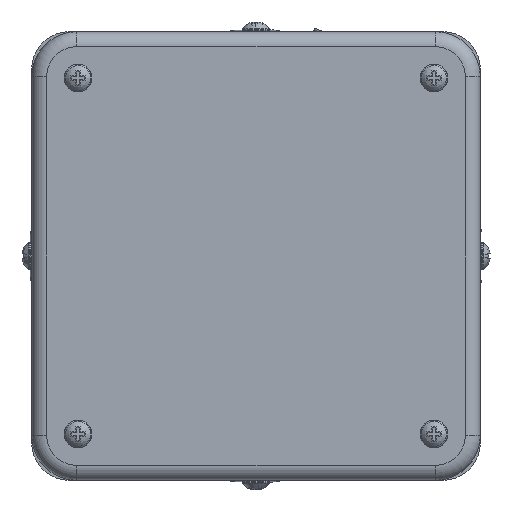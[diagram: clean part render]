
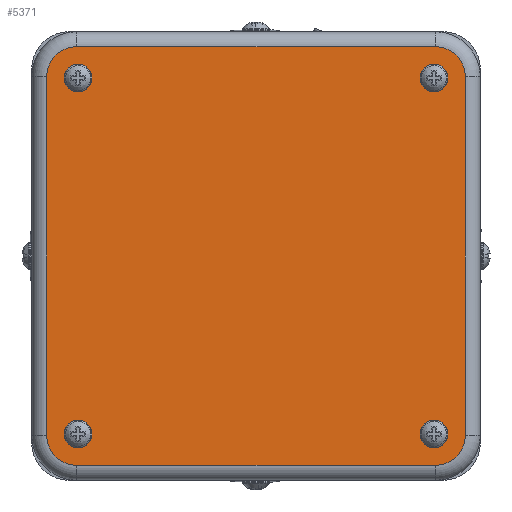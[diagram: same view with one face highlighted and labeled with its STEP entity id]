
A CAD part, left-side view. The second image highlights one B-rep face of the part: STEP entity #5371.
In plain terms, the highlighted planar face has unit normal (-1, 0, 0).
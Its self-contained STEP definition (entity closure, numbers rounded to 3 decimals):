
#1635=CARTESIAN_POINT('',(-123.672,-31.097,-23.376));
#1636=VERTEX_POINT('',#1635);
#1637=CARTESIAN_POINT('',(-123.672,-33.897,-23.376));
#1638=DIRECTION('',(1.0,0.0,0.0));
#1639=DIRECTION('',(0.0,-1.0,0.0));
#1640=AXIS2_PLACEMENT_3D('',#1637,#1638,#1639);
#1641=CIRCLE('',#1640,2.8);
#1642=EDGE_CURVE('',#1636,#1636,#1641,.T.);
#2244=CARTESIAN_POINT('',(-123.672,40.32,-23.376));
#2245=VERTEX_POINT('',#2244);
#2246=CARTESIAN_POINT('',(-123.672,37.52,-23.376));
#2247=DIRECTION('',(1.0,0.0,0.0));
#2248=DIRECTION('',(0.0,-1.0,0.0));
#2249=AXIS2_PLACEMENT_3D('',#2246,#2247,#2248);
#2250=CIRCLE('',#2249,2.8);
#2251=EDGE_CURVE('',#2245,#2245,#2250,.T.);
#5268=CARTESIAN_POINT('',(-123.672,8.839,5.306));
#5269=DIRECTION('',(1.0,0.0,0.0));
#5270=DIRECTION('',(0.0,1.0,0.0));
#5271=AXIS2_PLACEMENT_3D('',#5268,#5269,#5270);
#5272=PLANE('',#5271);
#5273=CARTESIAN_POINT('',(-123.672,37.811,-29.667));
#5274=VERTEX_POINT('',#5273);
#5275=CARTESIAN_POINT('',(-123.672,43.811,-23.667));
#5276=VERTEX_POINT('',#5275);
#5277=CARTESIAN_POINT('',(-123.672,37.811,-23.667));
#5278=DIRECTION('',(1.,0.,0.));
#5279=DIRECTION('',(0.,0.707,-0.707));
#5280=AXIS2_PLACEMENT_3D('',#5277,#5278,#5279);
#5281=CIRCLE('',#5280,6.);
#5282=EDGE_CURVE('',#5274,#5276,#5281,.T.);
#5283=ORIENTED_EDGE('',*,*,#5282,.F.);
#5284=CARTESIAN_POINT('',(-123.672,-34.189,-29.667));
#5285=VERTEX_POINT('',#5284);
#5286=CARTESIAN_POINT('',(-123.672,-34.189,-29.667));
#5287=DIRECTION('',(0.0,1.0,0.0));
#5288=VECTOR('',#5287,72.0);
#5289=LINE('',#5286,#5288);
#5290=EDGE_CURVE('',#5285,#5274,#5289,.T.);
#5291=ORIENTED_EDGE('',*,*,#5290,.F.);
#5292=CARTESIAN_POINT('',(-123.672,-40.189,-23.667));
#5293=VERTEX_POINT('',#5292);
#5294=CARTESIAN_POINT('',(-123.672,-34.189,-23.667));
#5295=DIRECTION('',(1.,0.,0.));
#5296=DIRECTION('',(0.,-0.707,-0.707));
#5297=AXIS2_PLACEMENT_3D('',#5294,#5295,#5296);
#5298=CIRCLE('',#5297,6.);
#5299=EDGE_CURVE('',#5293,#5285,#5298,.T.);
#5300=ORIENTED_EDGE('',*,*,#5299,.F.);
#5301=CARTESIAN_POINT('',(-123.672,-40.189,48.333));
#5302=VERTEX_POINT('',#5301);
#5303=CARTESIAN_POINT('',(-123.672,-40.189,48.333));
#5304=DIRECTION('',(0.0,0.0,-1.0));
#5305=VECTOR('',#5304,72.0);
#5306=LINE('',#5303,#5305);
#5307=EDGE_CURVE('',#5302,#5293,#5306,.T.);
#5308=ORIENTED_EDGE('',*,*,#5307,.F.);
#5309=CARTESIAN_POINT('',(-123.672,-34.189,54.333));
#5310=VERTEX_POINT('',#5309);
#5311=CARTESIAN_POINT('',(-123.672,-34.189,48.333));
#5312=DIRECTION('',(1.,0.,0.));
#5313=DIRECTION('',(0.,-0.707,0.707));
#5314=AXIS2_PLACEMENT_3D('',#5311,#5312,#5313);
#5315=CIRCLE('',#5314,6.);
#5316=EDGE_CURVE('',#5310,#5302,#5315,.T.);
#5317=ORIENTED_EDGE('',*,*,#5316,.F.);
#5318=CARTESIAN_POINT('',(-123.672,37.811,54.333));
#5319=VERTEX_POINT('',#5318);
#5320=CARTESIAN_POINT('',(-123.672,37.811,54.333));
#5321=DIRECTION('',(0.0,-1.0,0.0));
#5322=VECTOR('',#5321,72.);
#5323=LINE('',#5320,#5322);
#5324=EDGE_CURVE('',#5319,#5310,#5323,.T.);
#5325=ORIENTED_EDGE('',*,*,#5324,.F.);
#5326=CARTESIAN_POINT('',(-123.672,43.811,48.333));
#5327=VERTEX_POINT('',#5326);
#5328=CARTESIAN_POINT('',(-123.672,37.811,48.333));
#5329=DIRECTION('',(1.,0.,0.));
#5330=DIRECTION('',(0.,0.707,0.707));
#5331=AXIS2_PLACEMENT_3D('',#5328,#5329,#5330);
#5332=CIRCLE('',#5331,6.);
#5333=EDGE_CURVE('',#5327,#5319,#5332,.T.);
#5334=ORIENTED_EDGE('',*,*,#5333,.F.);
#5335=CARTESIAN_POINT('',(-123.672,43.811,-23.667));
#5336=DIRECTION('',(0.0,0.0,1.0));
#5337=VECTOR('',#5336,72.0);
#5338=LINE('',#5335,#5337);
#5339=EDGE_CURVE('',#5276,#5327,#5338,.T.);
#5340=ORIENTED_EDGE('',*,*,#5339,.F.);
#5341=EDGE_LOOP('',(#5283,#5291,#5300,#5308,#5317,#5325,#5334,#5340));
#5342=FACE_OUTER_BOUND('',#5341,.T.);
#5343=CARTESIAN_POINT('',(-123.672,-31.097,48.042));
#5344=VERTEX_POINT('',#5343);
#5345=CARTESIAN_POINT('',(-123.672,-33.897,48.042));
#5346=DIRECTION('',(1.0,0.0,0.0));
#5347=DIRECTION('',(0.0,-1.0,0.0));
#5348=AXIS2_PLACEMENT_3D('',#5345,#5346,#5347);
#5349=CIRCLE('',#5348,2.8);
#5350=EDGE_CURVE('',#5344,#5344,#5349,.T.);
#5351=ORIENTED_EDGE('',*,*,#5350,.T.);
#5352=EDGE_LOOP('',(#5351));
#5353=FACE_BOUND('',#5352,.T.);
#5354=ORIENTED_EDGE('',*,*,#1642,.T.);
#5355=EDGE_LOOP('',(#5354));
#5356=FACE_BOUND('',#5355,.T.);
#5357=CARTESIAN_POINT('',(-123.672,40.32,48.042));
#5358=VERTEX_POINT('',#5357);
#5359=CARTESIAN_POINT('',(-123.672,37.52,48.042));
#5360=DIRECTION('',(1.0,0.0,0.0));
#5361=DIRECTION('',(0.0,-1.0,0.0));
#5362=AXIS2_PLACEMENT_3D('',#5359,#5360,#5361);
#5363=CIRCLE('',#5362,2.8);
#5364=EDGE_CURVE('',#5358,#5358,#5363,.T.);
#5365=ORIENTED_EDGE('',*,*,#5364,.T.);
#5366=EDGE_LOOP('',(#5365));
#5367=FACE_BOUND('',#5366,.T.);
#5368=ORIENTED_EDGE('',*,*,#2251,.T.);
#5369=EDGE_LOOP('',(#5368));
#5370=FACE_BOUND('',#5369,.T.);
#5371=ADVANCED_FACE('',(#5342,#5353,#5356,#5367,#5370),#5272,.F.);
